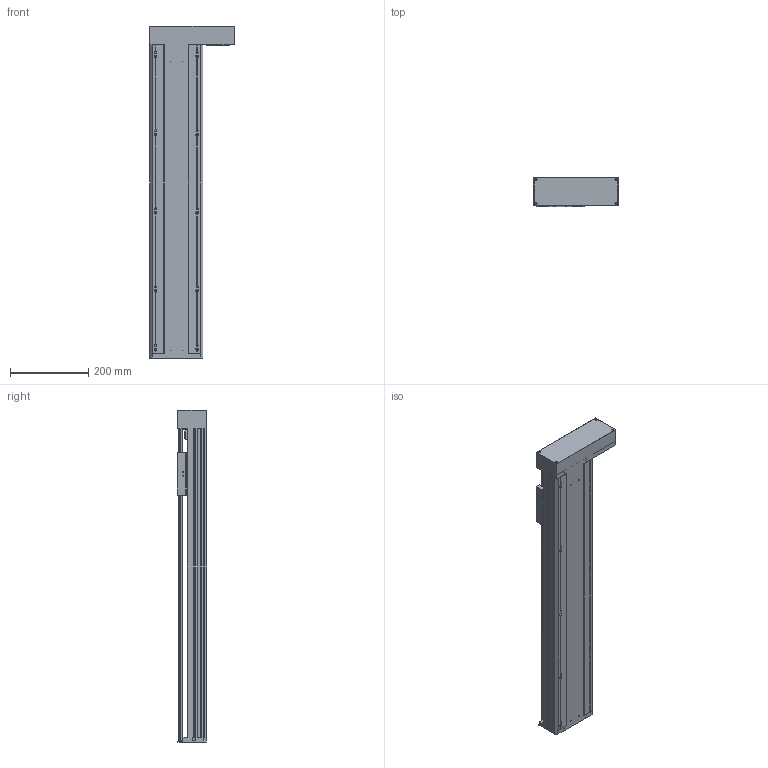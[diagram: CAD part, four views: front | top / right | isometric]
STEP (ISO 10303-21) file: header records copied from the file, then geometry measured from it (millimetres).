
FILE_DESCRIPTION(/* description */ (''),/* implementation_level */ '2;1');
FILE_NAME(/* name */ 'TKA136-FR-600_asm1.stp',/* time_stamp */ '2016-05-07T14:37:11+08:00',/* author */ (''),/* organization */ (''),/* preprocessor_version */ 'ST-DEVELOPER v15',/* originating_system */ 'SIEMENS PLM Software NX 8.5',/* authorisation */ '');
FILE_SCHEMA (('AUTOMOTIVE_DESIGN { 1 0 10303 214 3 1 1 1 }'));
Length unit declared in the file: millimetre
Products named in the file (3): 100-02; 100-01; TKA136-FR-600_asm1
Assembly tree (2 placements, depth 2):
  TKA136-FR-600_asm1
    100-01
    100-02
Bounding box: 216 x 75 x 850 mm (x, y, z)
Volume: 2718816.9 mm3; surface area: 1060250.1 mm2
Topology: 2 solids, 12 shells, 881 faces, 2484 edges, 1625 vertices
Faces by surface type: plane 415, cylinder 413, cone 53
Full cylindrical faces by diameter (mm): 2.5 x4, 3 x2, 3.3 x15, 4 x4, 4.2 x14, 4.5 x26, 5 x14, 5.5 x26, 6.6 x14, 8 x20, 10 x9, 10.5 x10, 11 x4, 11.6 x1, 12 x9, 15 x3, 16 x5, 17 x1, 24 x5, 26 x1, 28 x1, 46 x2, 50 x1
Entity records: 29337 total; most frequent: CARTESIAN_POINT 7748, DIRECTION 4487, ORIENTED_EDGE 4178, EDGE_CURVE 2089, AXIS2_PLACEMENT_3D 1709, VERTEX_POINT 1499, EDGE_LOOP 1297, LINE 1069
